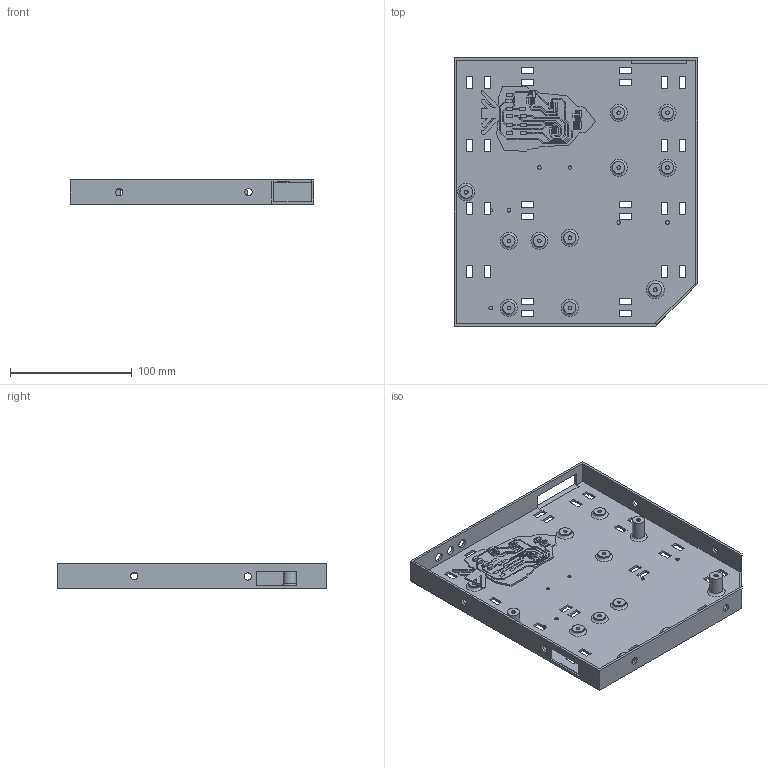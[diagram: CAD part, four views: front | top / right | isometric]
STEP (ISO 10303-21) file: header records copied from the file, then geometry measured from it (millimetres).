
FILE_DESCRIPTION(/* description */ (''),/* implementation_level */ '2;1');
FILE_NAME(/* name */ 'Boardbox.step',/* time_stamp */ '2023-06-06T07:04:01-04:00',/* author */ (''),/* organization */ (''),/* preprocessor_version */ 'ST-DEVELOPER v19.2',/* originating_system */ 'Autodesk Translation Framework v12.6.0.85',/* authorisation */ '');
FILE_SCHEMA (('AUTOMOTIVE_DESIGN { 1 0 10303 214 3 1 1 }'));
Length unit declared in the file: millimetre
Products named in the file (9): Boardbox; BUTTONBOARDCARROT; Board; 1-copper; 16-copper; Packages; R1206FAB; SMD1,27-2,54; SMD2,54-5,08
Assembly tree (30 placements, depth 4):
  Boardbox
    BUTTONBOARDCARROT
      Board
      1-copper
      16-copper
      Packages
        R1206FAB
        SMD1,27-2,54  x20
        SMD2,54-5,08  x4
Bounding box: 200 x 220 x 20 mm (x, y, z)
Volume: 122025.1 mm3; surface area: 127985.9 mm2
Topology: 73 solids, 73 shells, 1191 faces, 3037 edges, 2022 vertices
Faces by surface type: plane 901, cylinder 266, torus 13, bspline 6, cone 5
Full cylindrical faces by diameter (mm): 2.93 x49, 3.5 x2, 3.599 x16, 6 x6, 7.5 x3, 10 x11, 10.198 x1, 10.7 x1
Entity records: 40415 total; most frequent: CARTESIAN_POINT 13944, ORIENTED_EDGE 5540, DIRECTION 4996, EDGE_CURVE 2770, LINE 2174, VECTOR 2174, VERTEX_POINT 1846, AXIS2_PLACEMENT_3D 1411
